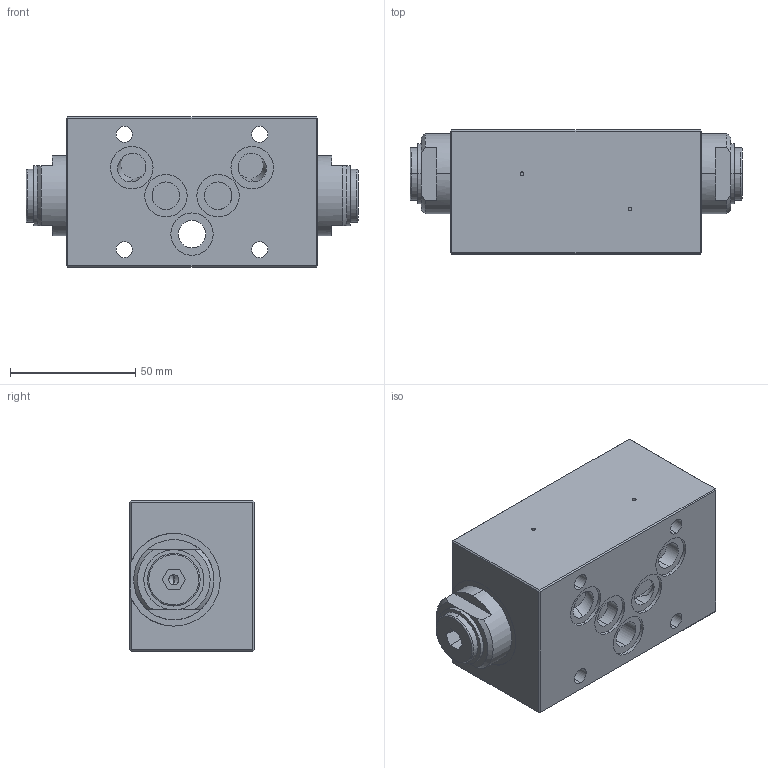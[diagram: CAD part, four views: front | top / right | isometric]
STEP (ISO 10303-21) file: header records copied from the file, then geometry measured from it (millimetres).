
FILE_DESCRIPTION (( 'STEP AP214' ), '1' );
FILE_NAME ('ADERV10.STEP', '2017-05-08T11:57:26', ( '' ), ( '' ), 'SwSTEP 2.0', 'SolidWorks 2016', '' );
FILE_SCHEMA (( 'AUTOMOTIVE_DESIGN' ));
Length unit declared in the file: millimetre
Products named in the file (1): ADERV10
Bounding box: 132.4 x 49.5 x 60 mm (x, y, z)
Volume: 299767.1 mm3; surface area: 38333.9 mm2
Topology: 1 solids, 1 shells, 151 faces, 354 edges, 225 vertices
Faces by surface type: plane 73, cylinder 64, cone 10, torus 4
Entity records: 5997 total; most frequent: CARTESIAN_POINT 991, DIRECTION 734, ORIENTED_EDGE 704, EDGE_CURVE 352, AXIS2_PLACEMENT_3D 280, VERTEX_POINT 225, EDGE_LOOP 183, VECTOR 174
